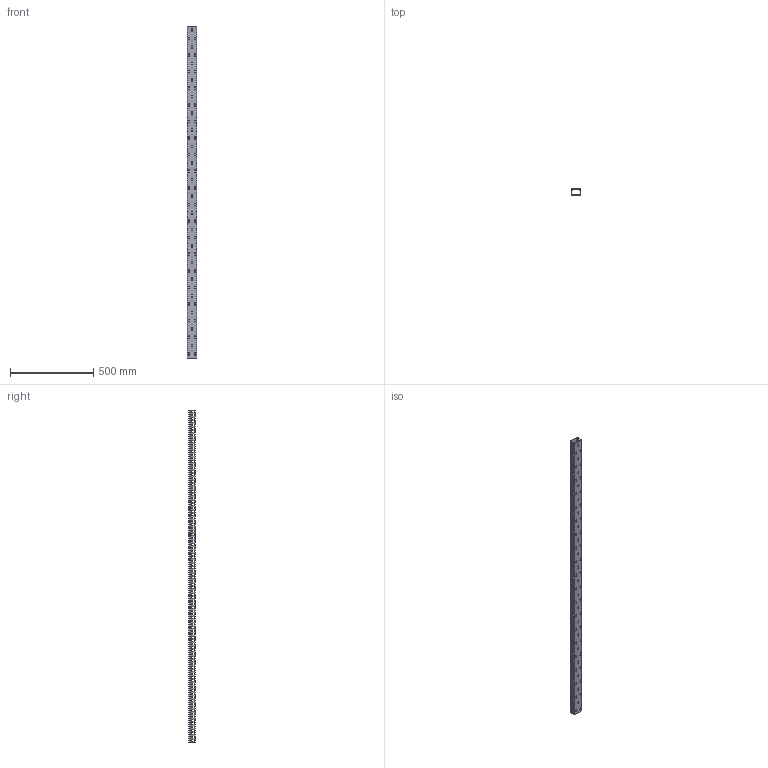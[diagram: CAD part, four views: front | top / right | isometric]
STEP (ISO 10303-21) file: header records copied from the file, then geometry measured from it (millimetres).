
FILE_DESCRIPTION (( 'STEP AP214' ), '1' );
FILE_NAME ('KD-64-20-H.STEP', '2020-02-19T00:39:13', ( '' ), ( '' ), 'SwSTEP 2.0', 'SolidWorks 2018', '' );
FILE_SCHEMA (( 'AUTOMOTIVE_DESIGN' ));
Length unit declared in the file: millimetre
Products named in the file (3): KD-64-20-H; KD-64-20-cover; KD-64-20-H-body
Assembly tree (2 placements, depth 2):
  KD-64-20-H
    KD-64-20-H-body
    KD-64-20-cover
Bounding box: 60 x 40.17 x 2000 mm (x, y, z)
Volume: 693587.5 mm3; surface area: 874652 mm2
Topology: 2 solids, 2 shells, 1963 faces, 5877 edges, 3918 vertices
Faces by surface type: cylinder 1017, plane 946
Entity records: 67875 total; most frequent: DIRECTION 11847, CARTESIAN_POINT 11763, ORIENTED_EDGE 11754, EDGE_CURVE 5877, AXIS2_PLACEMENT_3D 4002, VERTEX_POINT 3918, LINE 3843, VECTOR 3843
